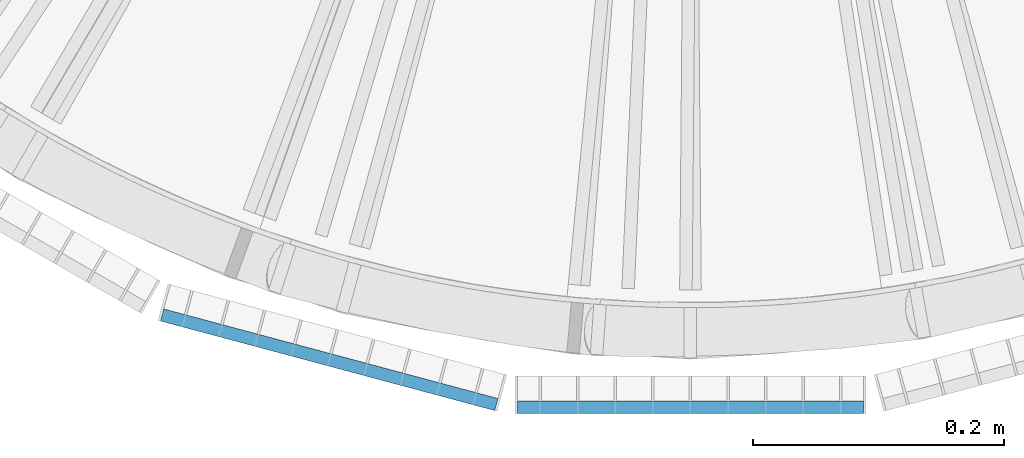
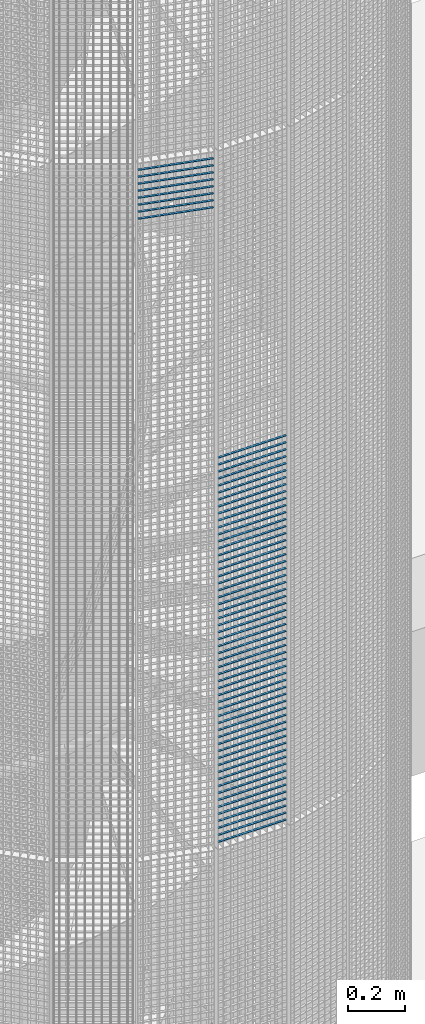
# One storey, part 144 of 1183: 64 beams, 2 elements without a shape of their own.
"""IFC2X3 building model written with IfcOpenShell, lengths in millimetres."""

from ifc_helpers import new_model, si_unit, frame, origin_with_axes, origin_2d_with_axis, place, context, subcontext, project, spatial, rectangle, extrude, material, type_object, element, aggregate, save


model = new_model("IFC2X3")

# Units and contexts
model_context = context("Model", 3, precision=1e-05, world=origin_with_axes())
body_context = subcontext(model_context, "Body", "Model", "MODEL_VIEW")
ifc_project = project(units=[si_unit("LENGTHUNIT", "METRE", prefix="MILLI"), si_unit("AREAUNIT", "SQUARE_METRE"), si_unit("VOLUMEUNIT", "CUBIC_METRE"), si_unit("MASSUNIT", "GRAM", prefix="KILO"), si_unit("TIMEUNIT", "SECOND"), si_unit("PLANEANGLEUNIT", "RADIAN"), si_unit("SOLIDANGLEUNIT", "STERADIAN"), si_unit("THERMODYNAMICTEMPERATUREUNIT", "DEGREE_CELSIUS"), si_unit("LUMINOUSINTENSITYUNIT", "LUMEN")], contexts=[model_context])

# Site, building, storey
site_placement = place(None, origin_with_axes())
site = spatial("IfcSite", under=ifc_project, at=site_placement, Name="Undefined", CompositionType="ELEMENT")
building_placement = place(site_placement, origin_with_axes())
building = spatial("IfcBuilding", under=site, at=building_placement, Name="Undefined", CompositionType="ELEMENT")
storey_placement = place(building_placement, origin_with_axes())
storey = spatial("IfcBuildingStorey", under=building, at=storey_placement, Name="Undefined", CompositionType="ELEMENT", Elevation=0.0)

# Assembly, beams
assembly_1_placement = place(storey_placement, origin_with_axes())
assembly_1 = element("IfcElementAssembly", 1, at=assembly_1_placement, inside=storey, Name="BORDURE", AssemblyPlace="NOTDEFINED", PredefinedType="NOTDEFINED")
ifc_material = material(Name="STEEL/S235JR")
beam_type = type_object("IfcBeamType", Name="PL2*10", PredefinedType="NOTDEFINED")
beam_1_placement = place(assembly_1_placement, frame((-137.996003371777, -1113.47999999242, 13680.0), z_axis=(0.0, -1.0, 0.0), x_axis=(1.0, 0.0, 0.0)))
beam_1 = element("IfcBeam", 2, at=beam_1_placement, type_object=beam_type, material=ifc_material, Name="ENTRETOISE", context=body_context, shape_type="SweptSolid", body=[
    extrude(rectangle(XDim=2.0, YDim=10.0, at=origin_2d_with_axis()), frame((275.999999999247, 9.09494701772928e-13, 1.53210777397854e-14), z_axis=(-1.0, 0.0, 0.0), x_axis=(0.0, -1.0, 0.0)), (0.0, 0.0, 1.0), 276.0),
])
beam_2_placement = place(assembly_1_placement, frame((-137.996003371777, -1113.47999999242, 13650.0), z_axis=(0.0, -1.0, 0.0), x_axis=(1.0, 0.0, 0.0)))
beam_2 = element("IfcBeam", 3, at=beam_2_placement, type_object=beam_type, material=ifc_material, Name="ENTRETOISE", context=body_context, shape_type="SweptSolid", body=[
    extrude(rectangle(XDim=2.0, YDim=10.0, at=origin_2d_with_axis()), frame((275.999999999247, 9.09494701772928e-13, 1.53210777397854e-14), z_axis=(-1.0, 0.0, 0.0), x_axis=(0.0, -1.0, 0.0)), (0.0, 0.0, 1.0), 276.0),
])
beam_3_placement = place(assembly_1_placement, frame((-137.996003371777, -1113.47999999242, 13620.0), z_axis=(0.0, -1.0, 0.0), x_axis=(1.0, 0.0, 0.0)))
beam_3 = element("IfcBeam", 4, at=beam_3_placement, type_object=beam_type, material=ifc_material, Name="ENTRETOISE", context=body_context, shape_type="SweptSolid", body=[
    extrude(rectangle(XDim=2.0, YDim=10.0, at=origin_2d_with_axis()), frame((275.999999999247, 9.09494701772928e-13, 1.53210777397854e-14), z_axis=(-1.0, 0.0, 0.0), x_axis=(0.0, -1.0, 0.0)), (0.0, 0.0, 1.0), 276.0),
])
beam_4_placement = place(assembly_1_placement, frame((-137.996003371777, -1113.47999999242, 13590.0), z_axis=(0.0, -1.0, 0.0), x_axis=(1.0, 0.0, 0.0)))
beam_4 = element("IfcBeam", 5, at=beam_4_placement, type_object=beam_type, material=ifc_material, Name="ENTRETOISE", context=body_context, shape_type="SweptSolid", body=[
    extrude(rectangle(XDim=2.0, YDim=10.0, at=origin_2d_with_axis()), frame((275.999999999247, 9.09494701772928e-13, 1.53210777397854e-14), z_axis=(-1.0, 0.0, 0.0), x_axis=(0.0, -1.0, 0.0)), (0.0, 0.0, 1.0), 276.0),
])
beam_5_placement = place(assembly_1_placement, frame((-137.996003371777, -1113.47999999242, 13560.0), z_axis=(0.0, -1.0, 0.0), x_axis=(1.0, 0.0, 0.0)))
beam_5 = element("IfcBeam", 6, at=beam_5_placement, type_object=beam_type, material=ifc_material, Name="ENTRETOISE", context=body_context, shape_type="SweptSolid", body=[
    extrude(rectangle(XDim=2.0, YDim=10.0, at=origin_2d_with_axis()), frame((275.999999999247, 9.09494701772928e-13, 1.53210777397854e-14), z_axis=(-1.0, 0.0, 0.0), x_axis=(0.0, -1.0, 0.0)), (0.0, 0.0, 1.0), 276.0),
])
beam_6_placement = place(assembly_1_placement, frame((-137.996003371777, -1113.47999999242, 13530.0), z_axis=(0.0, -1.0, 0.0), x_axis=(1.0, 0.0, 0.0)))
beam_6 = element("IfcBeam", 7, at=beam_6_placement, type_object=beam_type, material=ifc_material, Name="ENTRETOISE", context=body_context, shape_type="SweptSolid", body=[
    extrude(rectangle(XDim=2.0, YDim=10.0, at=origin_2d_with_axis()), frame((275.999999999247, 9.09494701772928e-13, 1.53210777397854e-14), z_axis=(-1.0, 0.0, 0.0), x_axis=(0.0, -1.0, 0.0)), (0.0, 0.0, 1.0), 276.0),
])
beam_7_placement = place(assembly_1_placement, frame((-137.996003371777, -1113.47999999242, 13500.0), z_axis=(0.0, -1.0, 0.0), x_axis=(1.0, 0.0, 0.0)))
beam_7 = element("IfcBeam", 8, at=beam_7_placement, type_object=beam_type, material=ifc_material, Name="ENTRETOISE", context=body_context, shape_type="SweptSolid", body=[
    extrude(rectangle(XDim=2.0, YDim=10.0, at=origin_2d_with_axis()), frame((275.999999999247, 9.09494701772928e-13, 1.53210777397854e-14), z_axis=(-1.0, 0.0, 0.0), x_axis=(0.0, -1.0, 0.0)), (0.0, 0.0, 1.0), 276.0),
])
beam_8_placement = place(assembly_1_placement, frame((-137.996003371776, -1113.47999999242, 13470.0), z_axis=(0.0, -1.0, 0.0), x_axis=(1.0, 0.0, 0.0)))
beam_8 = element("IfcBeam", 9, at=beam_8_placement, type_object=beam_type, material=ifc_material, Name="ENTRETOISE", context=body_context, shape_type="SweptSolid", body=[
    extrude(rectangle(XDim=2.0, YDim=10.0, at=origin_2d_with_axis()), frame((275.999999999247, 9.09494701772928e-13, 1.53210777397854e-14), z_axis=(-1.0, 0.0, 0.0), x_axis=(0.0, -1.0, 0.0)), (0.0, 0.0, 1.0), 276.0),
])
beam_9_placement = place(assembly_1_placement, frame((-137.996003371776, -1113.47999999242, 13440.0), z_axis=(0.0, -1.0, 0.0), x_axis=(1.0, 0.0, 0.0)))
beam_9 = element("IfcBeam", 10, at=beam_9_placement, type_object=beam_type, material=ifc_material, Name="ENTRETOISE", context=body_context, shape_type="SweptSolid", body=[
    extrude(rectangle(XDim=2.0, YDim=10.0, at=origin_2d_with_axis()), frame((275.999999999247, 9.09494701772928e-13, 1.53210777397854e-14), z_axis=(-1.0, 0.0, 0.0), x_axis=(0.0, -1.0, 0.0)), (0.0, 0.0, 1.0), 276.0),
])
beam_10_placement = place(assembly_1_placement, frame((-137.996003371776, -1113.47999999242, 13410.0), z_axis=(0.0, -1.0, 0.0), x_axis=(1.0, 0.0, 0.0)))
beam_10 = element("IfcBeam", 11, at=beam_10_placement, type_object=beam_type, material=ifc_material, Name="ENTRETOISE", context=body_context, shape_type="SweptSolid", body=[
    extrude(rectangle(XDim=2.0, YDim=10.0, at=origin_2d_with_axis()), frame((275.999999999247, 9.09494701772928e-13, 1.53210777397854e-14), z_axis=(-1.0, 0.0, 0.0), x_axis=(0.0, -1.0, 0.0)), (0.0, 0.0, 1.0), 276.0),
])
beam_11_placement = place(assembly_1_placement, frame((-137.996003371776, -1113.47999999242, 13380.0), z_axis=(0.0, -1.0, 0.0), x_axis=(1.0, 0.0, 0.0)))
beam_11 = element("IfcBeam", 12, at=beam_11_placement, type_object=beam_type, material=ifc_material, Name="ENTRETOISE", context=body_context, shape_type="SweptSolid", body=[
    extrude(rectangle(XDim=2.0, YDim=10.0, at=origin_2d_with_axis()), frame((275.999999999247, 9.09494701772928e-13, 1.53210777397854e-14), z_axis=(-1.0, 0.0, 0.0), x_axis=(0.0, -1.0, 0.0)), (0.0, 0.0, 1.0), 276.0),
])
beam_12_placement = place(assembly_1_placement, frame((-137.996003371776, -1113.47999999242, 13350.0), z_axis=(0.0, -1.0, 0.0), x_axis=(1.0, 0.0, 0.0)))
beam_12 = element("IfcBeam", 13, at=beam_12_placement, type_object=beam_type, material=ifc_material, Name="ENTRETOISE", context=body_context, shape_type="SweptSolid", body=[
    extrude(rectangle(XDim=2.0, YDim=10.0, at=origin_2d_with_axis()), frame((275.999999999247, 9.09494701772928e-13, 1.53210777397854e-14), z_axis=(-1.0, 0.0, 0.0), x_axis=(0.0, -1.0, 0.0)), (0.0, 0.0, 1.0), 276.0),
])
beam_13_placement = place(assembly_1_placement, frame((-137.996003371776, -1113.47999999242, 13320.0), z_axis=(0.0, -1.0, 0.0), x_axis=(1.0, 0.0, 0.0)))
beam_13 = element("IfcBeam", 14, at=beam_13_placement, type_object=beam_type, material=ifc_material, Name="ENTRETOISE", context=body_context, shape_type="SweptSolid", body=[
    extrude(rectangle(XDim=2.0, YDim=10.0, at=origin_2d_with_axis()), frame((275.999999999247, 9.09494701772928e-13, 1.53210777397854e-14), z_axis=(-1.0, 0.0, 0.0), x_axis=(0.0, -1.0, 0.0)), (0.0, 0.0, 1.0), 276.0),
])
beam_14_placement = place(assembly_1_placement, frame((-137.996003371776, -1113.47999999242, 13290.0), z_axis=(0.0, -1.0, 0.0), x_axis=(1.0, 0.0, 0.0)))
beam_14 = element("IfcBeam", 15, at=beam_14_placement, type_object=beam_type, material=ifc_material, Name="ENTRETOISE", context=body_context, shape_type="SweptSolid", body=[
    extrude(rectangle(XDim=2.0, YDim=10.0, at=origin_2d_with_axis()), frame((275.999999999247, 9.09494701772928e-13, 1.53210777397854e-14), z_axis=(-1.0, 0.0, 0.0), x_axis=(0.0, -1.0, 0.0)), (0.0, 0.0, 1.0), 276.0),
])
beam_15_placement = place(assembly_1_placement, frame((-137.996003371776, -1113.47999999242, 13260.0), z_axis=(0.0, -1.0, 0.0), x_axis=(1.0, 0.0, 0.0)))
beam_15 = element("IfcBeam", 16, at=beam_15_placement, type_object=beam_type, material=ifc_material, Name="ENTRETOISE", context=body_context, shape_type="SweptSolid", body=[
    extrude(rectangle(XDim=2.0, YDim=10.0, at=origin_2d_with_axis()), frame((275.999999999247, 9.09494701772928e-13, 1.53210777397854e-14), z_axis=(-1.0, 0.0, 0.0), x_axis=(0.0, -1.0, 0.0)), (0.0, 0.0, 1.0), 276.0),
])
beam_16_placement = place(assembly_1_placement, frame((-137.996003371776, -1113.47999999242, 13230.0), z_axis=(0.0, -1.0, 0.0), x_axis=(1.0, 0.0, 0.0)))
beam_16 = element("IfcBeam", 17, at=beam_16_placement, type_object=beam_type, material=ifc_material, Name="ENTRETOISE", context=body_context, shape_type="SweptSolid", body=[
    extrude(rectangle(XDim=2.0, YDim=10.0, at=origin_2d_with_axis()), frame((275.999999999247, 9.09494701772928e-13, 1.53210777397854e-14), z_axis=(-1.0, 0.0, 0.0), x_axis=(0.0, -1.0, 0.0)), (0.0, 0.0, 1.0), 276.0),
])
beam_17_placement = place(assembly_1_placement, frame((-137.996003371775, -1113.47999999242, 13200.0), z_axis=(0.0, -1.0, 0.0), x_axis=(1.0, 0.0, 0.0)))
beam_17 = element("IfcBeam", 18, at=beam_17_placement, type_object=beam_type, material=ifc_material, Name="ENTRETOISE", context=body_context, shape_type="SweptSolid", body=[
    extrude(rectangle(XDim=2.0, YDim=10.0, at=origin_2d_with_axis()), frame((275.999999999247, 9.09494701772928e-13, 1.53210777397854e-14), z_axis=(-1.0, 0.0, 0.0), x_axis=(0.0, -1.0, 0.0)), (0.0, 0.0, 1.0), 276.0),
])
beam_18_placement = place(assembly_1_placement, frame((-137.996003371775, -1113.47999999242, 13170.0), z_axis=(0.0, -1.0, 0.0), x_axis=(1.0, 0.0, 0.0)))
beam_18 = element("IfcBeam", 19, at=beam_18_placement, type_object=beam_type, material=ifc_material, Name="ENTRETOISE", context=body_context, shape_type="SweptSolid", body=[
    extrude(rectangle(XDim=2.0, YDim=10.0, at=origin_2d_with_axis()), frame((275.999999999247, 9.09494701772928e-13, 1.53210777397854e-14), z_axis=(-1.0, 0.0, 0.0), x_axis=(0.0, -1.0, 0.0)), (0.0, 0.0, 1.0), 276.0),
])
beam_19_placement = place(assembly_1_placement, frame((-137.996003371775, -1113.47999999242, 13140.0), z_axis=(0.0, -1.0, 0.0), x_axis=(1.0, 0.0, 0.0)))
beam_19 = element("IfcBeam", 20, at=beam_19_placement, type_object=beam_type, material=ifc_material, Name="ENTRETOISE", context=body_context, shape_type="SweptSolid", body=[
    extrude(rectangle(XDim=2.0, YDim=10.0, at=origin_2d_with_axis()), frame((275.999999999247, 9.09494701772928e-13, 1.53210777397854e-14), z_axis=(-1.0, 0.0, 0.0), x_axis=(0.0, -1.0, 0.0)), (0.0, 0.0, 1.0), 276.0),
])
beam_20_placement = place(assembly_1_placement, frame((-137.996003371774, -1113.47999999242, 12720.0), z_axis=(0.0, -1.0, 0.0), x_axis=(1.0, 0.0, 0.0)))
beam_20 = element("IfcBeam", 21, at=beam_20_placement, type_object=beam_type, material=ifc_material, Name="ENTRETOISE", context=body_context, shape_type="SweptSolid", body=[
    extrude(rectangle(XDim=2.0, YDim=10.0, at=origin_2d_with_axis()), frame((275.999999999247, 9.09494701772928e-13, 1.53210777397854e-14), z_axis=(-1.0, 0.0, 0.0), x_axis=(0.0, -1.0, 0.0)), (0.0, 0.0, 1.0), 276.0),
])
beam_21_placement = place(assembly_1_placement, frame((-137.996003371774, -1113.47999999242, 12690.0), z_axis=(0.0, -1.0, 0.0), x_axis=(1.0, 0.0, 0.0)))
beam_21 = element("IfcBeam", 22, at=beam_21_placement, type_object=beam_type, material=ifc_material, Name="ENTRETOISE", context=body_context, shape_type="SweptSolid", body=[
    extrude(rectangle(XDim=2.0, YDim=10.0, at=origin_2d_with_axis()), frame((275.999999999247, 9.09494701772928e-13, 1.53210777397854e-14), z_axis=(-1.0, 0.0, 0.0), x_axis=(0.0, -1.0, 0.0)), (0.0, 0.0, 1.0), 276.0),
])
beam_22_placement = place(assembly_1_placement, frame((-137.996003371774, -1113.47999999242, 12750.0), z_axis=(0.0, -1.0, 0.0), x_axis=(1.0, 0.0, 0.0)))
beam_22 = element("IfcBeam", 23, at=beam_22_placement, type_object=beam_type, material=ifc_material, Name="ENTRETOISE", context=body_context, shape_type="SweptSolid", body=[
    extrude(rectangle(XDim=2.0, YDim=10.0, at=origin_2d_with_axis()), frame((275.999999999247, 9.09494701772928e-13, 1.53210777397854e-14), z_axis=(-1.0, 0.0, 0.0), x_axis=(0.0, -1.0, 0.0)), (0.0, 0.0, 1.0), 276.0),
])
beam_23_placement = place(assembly_1_placement, frame((-137.996003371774, -1113.47999999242, 12660.0), z_axis=(0.0, -1.0, 0.0), x_axis=(1.0, 0.0, 0.0)))
beam_23 = element("IfcBeam", 24, at=beam_23_placement, type_object=beam_type, material=ifc_material, Name="ENTRETOISE", context=body_context, shape_type="SweptSolid", body=[
    extrude(rectangle(XDim=2.0, YDim=10.0, at=origin_2d_with_axis()), frame((275.999999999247, 9.09494701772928e-13, 1.53210777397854e-14), z_axis=(-1.0, 0.0, 0.0), x_axis=(0.0, -1.0, 0.0)), (0.0, 0.0, 1.0), 276.0),
])
beam_24_placement = place(assembly_1_placement, frame((-137.996003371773, -1113.47999999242, 12630.0), z_axis=(0.0, -1.0, 0.0), x_axis=(1.0, 0.0, 0.0)))
beam_24 = element("IfcBeam", 25, at=beam_24_placement, type_object=beam_type, material=ifc_material, Name="ENTRETOISE", context=body_context, shape_type="SweptSolid", body=[
    extrude(rectangle(XDim=2.0, YDim=10.0, at=origin_2d_with_axis()), frame((275.999999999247, 9.09494701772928e-13, 1.53210777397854e-14), z_axis=(-1.0, 0.0, 0.0), x_axis=(0.0, -1.0, 0.0)), (0.0, 0.0, 1.0), 276.0),
])
beam_25_placement = place(assembly_1_placement, frame((-137.996003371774, -1113.47999999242, 12780.0), z_axis=(0.0, -1.0, 0.0), x_axis=(1.0, 0.0, 0.0)))
beam_25 = element("IfcBeam", 26, at=beam_25_placement, type_object=beam_type, material=ifc_material, Name="ENTRETOISE", context=body_context, shape_type="SweptSolid", body=[
    extrude(rectangle(XDim=2.0, YDim=10.0, at=origin_2d_with_axis()), frame((275.999999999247, 9.09494701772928e-13, 1.53210777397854e-14), z_axis=(-1.0, 0.0, 0.0), x_axis=(0.0, -1.0, 0.0)), (0.0, 0.0, 1.0), 276.0),
])
beam_26_placement = place(assembly_1_placement, frame((-137.996003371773, -1113.47999999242, 12600.0), z_axis=(0.0, -1.0, 0.0), x_axis=(1.0, 0.0, 0.0)))
beam_26 = element("IfcBeam", 27, at=beam_26_placement, type_object=beam_type, material=ifc_material, Name="ENTRETOISE", context=body_context, shape_type="SweptSolid", body=[
    extrude(rectangle(XDim=2.0, YDim=10.0, at=origin_2d_with_axis()), frame((275.999999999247, 9.09494701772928e-13, 1.53210777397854e-14), z_axis=(-1.0, 0.0, 0.0), x_axis=(0.0, -1.0, 0.0)), (0.0, 0.0, 1.0), 276.0),
])
beam_27_placement = place(assembly_1_placement, frame((-137.996003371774, -1113.47999999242, 12810.0), z_axis=(0.0, -1.0, 0.0), x_axis=(1.0, 0.0, 0.0)))
beam_27 = element("IfcBeam", 28, at=beam_27_placement, type_object=beam_type, material=ifc_material, Name="ENTRETOISE", context=body_context, shape_type="SweptSolid", body=[
    extrude(rectangle(XDim=2.0, YDim=10.0, at=origin_2d_with_axis()), frame((275.999999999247, 9.09494701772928e-13, 1.53210777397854e-14), z_axis=(-1.0, 0.0, 0.0), x_axis=(0.0, -1.0, 0.0)), (0.0, 0.0, 1.0), 276.0),
])
beam_28_placement = place(assembly_1_placement, frame((-137.996003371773, -1113.47999999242, 12570.0), z_axis=(0.0, -1.0, 0.0), x_axis=(1.0, 0.0, 0.0)))
beam_28 = element("IfcBeam", 29, at=beam_28_placement, type_object=beam_type, material=ifc_material, Name="ENTRETOISE", context=body_context, shape_type="SweptSolid", body=[
    extrude(rectangle(XDim=2.0, YDim=10.0, at=origin_2d_with_axis()), frame((275.999999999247, 9.09494701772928e-13, 1.53210777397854e-14), z_axis=(-1.0, 0.0, 0.0), x_axis=(0.0, -1.0, 0.0)), (0.0, 0.0, 1.0), 276.0),
])
beam_29_placement = place(assembly_1_placement, frame((-137.996003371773, -1113.47999999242, 12540.0), z_axis=(0.0, -1.0, 0.0), x_axis=(1.0, 0.0, 0.0)))
beam_29 = element("IfcBeam", 30, at=beam_29_placement, type_object=beam_type, material=ifc_material, Name="ENTRETOISE", context=body_context, shape_type="SweptSolid", body=[
    extrude(rectangle(XDim=2.0, YDim=10.0, at=origin_2d_with_axis()), frame((275.999999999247, 9.09494701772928e-13, 1.53210777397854e-14), z_axis=(-1.0, 0.0, 0.0), x_axis=(0.0, -1.0, 0.0)), (0.0, 0.0, 1.0), 276.0),
])
beam_30_placement = place(assembly_1_placement, frame((-137.996003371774, -1113.47999999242, 12840.0), z_axis=(0.0, -1.0, 0.0), x_axis=(1.0, 0.0, 0.0)))
beam_30 = element("IfcBeam", 31, at=beam_30_placement, type_object=beam_type, material=ifc_material, Name="ENTRETOISE", context=body_context, shape_type="SweptSolid", body=[
    extrude(rectangle(XDim=2.0, YDim=10.0, at=origin_2d_with_axis()), frame((275.999999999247, 9.09494701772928e-13, 1.53210777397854e-14), z_axis=(-1.0, 0.0, 0.0), x_axis=(0.0, -1.0, 0.0)), (0.0, 0.0, 1.0), 276.0),
])
beam_31_placement = place(assembly_1_placement, frame((-137.996003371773, -1113.47999999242, 12510.0), z_axis=(0.0, -1.0, 0.0), x_axis=(1.0, 0.0, 0.0)))
beam_31 = element("IfcBeam", 32, at=beam_31_placement, type_object=beam_type, material=ifc_material, Name="ENTRETOISE", context=body_context, shape_type="SweptSolid", body=[
    extrude(rectangle(XDim=2.0, YDim=10.0, at=origin_2d_with_axis()), frame((275.999999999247, 9.09494701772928e-13, 1.53210777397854e-14), z_axis=(-1.0, 0.0, 0.0), x_axis=(0.0, -1.0, 0.0)), (0.0, 0.0, 1.0), 276.0),
])
beam_32_placement = place(assembly_1_placement, frame((-137.996003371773, -1113.47999999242, 12480.0), z_axis=(0.0, -1.0, 0.0), x_axis=(1.0, 0.0, 0.0)))
beam_32 = element("IfcBeam", 33, at=beam_32_placement, type_object=beam_type, material=ifc_material, Name="ENTRETOISE", context=body_context, shape_type="SweptSolid", body=[
    extrude(rectangle(XDim=2.0, YDim=10.0, at=origin_2d_with_axis()), frame((275.999999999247, 9.09494701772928e-13, 1.53210777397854e-14), z_axis=(-1.0, 0.0, 0.0), x_axis=(0.0, -1.0, 0.0)), (0.0, 0.0, 1.0), 276.0),
])
beam_33_placement = place(assembly_1_placement, frame((-137.996003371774, -1113.47999999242, 12870.0), z_axis=(0.0, -1.0, 0.0), x_axis=(1.0, 0.0, 0.0)))
beam_33 = element("IfcBeam", 34, at=beam_33_placement, type_object=beam_type, material=ifc_material, Name="ENTRETOISE", context=body_context, shape_type="SweptSolid", body=[
    extrude(rectangle(XDim=2.0, YDim=10.0, at=origin_2d_with_axis()), frame((275.999999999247, 9.09494701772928e-13, 1.53210777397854e-14), z_axis=(-1.0, 0.0, 0.0), x_axis=(0.0, -1.0, 0.0)), (0.0, 0.0, 1.0), 276.0),
])
beam_34_placement = place(assembly_1_placement, frame((-137.996003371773, -1113.47999999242, 12450.0), z_axis=(0.0, -1.0, 0.0), x_axis=(1.0, 0.0, 0.0)))
beam_34 = element("IfcBeam", 35, at=beam_34_placement, type_object=beam_type, material=ifc_material, Name="ENTRETOISE", context=body_context, shape_type="SweptSolid", body=[
    extrude(rectangle(XDim=2.0, YDim=10.0, at=origin_2d_with_axis()), frame((275.999999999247, 9.09494701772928e-13, 1.53210777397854e-14), z_axis=(-1.0, 0.0, 0.0), x_axis=(0.0, -1.0, 0.0)), (0.0, 0.0, 1.0), 276.0),
])
beam_35_placement = place(assembly_1_placement, frame((-137.996003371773, -1113.47999999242, 12420.0), z_axis=(0.0, -1.0, 0.0), x_axis=(1.0, 0.0, 0.0)))
beam_35 = element("IfcBeam", 36, at=beam_35_placement, type_object=beam_type, material=ifc_material, Name="ENTRETOISE", context=body_context, shape_type="SweptSolid", body=[
    extrude(rectangle(XDim=2.0, YDim=10.0, at=origin_2d_with_axis()), frame((275.999999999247, 9.09494701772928e-13, 1.53210777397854e-14), z_axis=(-1.0, 0.0, 0.0), x_axis=(0.0, -1.0, 0.0)), (0.0, 0.0, 1.0), 276.0),
])
beam_36_placement = place(assembly_1_placement, frame((-137.996003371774, -1113.47999999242, 12900.0), z_axis=(0.0, -1.0, 0.0), x_axis=(1.0, 0.0, 0.0)))
beam_36 = element("IfcBeam", 37, at=beam_36_placement, type_object=beam_type, material=ifc_material, Name="ENTRETOISE", context=body_context, shape_type="SweptSolid", body=[
    extrude(rectangle(XDim=2.0, YDim=10.0, at=origin_2d_with_axis()), frame((275.999999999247, 9.09494701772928e-13, 1.53210777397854e-14), z_axis=(-1.0, 0.0, 0.0), x_axis=(0.0, -1.0, 0.0)), (0.0, 0.0, 1.0), 276.0),
])
beam_37_placement = place(assembly_1_placement, frame((-137.996003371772, -1113.47999999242, 12390.0), z_axis=(0.0, -1.0, 0.0), x_axis=(1.0, 0.0, 0.0)))
beam_37 = element("IfcBeam", 38, at=beam_37_placement, type_object=beam_type, material=ifc_material, Name="ENTRETOISE", context=body_context, shape_type="SweptSolid", body=[
    extrude(rectangle(XDim=2.0, YDim=10.0, at=origin_2d_with_axis()), frame((275.999999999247, 9.09494701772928e-13, 1.53210777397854e-14), z_axis=(-1.0, 0.0, 0.0), x_axis=(0.0, -1.0, 0.0)), (0.0, 0.0, 1.0), 276.0),
])
beam_38_placement = place(assembly_1_placement, frame((-137.996003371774, -1113.47999999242, 12930.0), z_axis=(0.0, -1.0, 0.0), x_axis=(1.0, 0.0, 0.0)))
beam_38 = element("IfcBeam", 39, at=beam_38_placement, type_object=beam_type, material=ifc_material, Name="ENTRETOISE", context=body_context, shape_type="SweptSolid", body=[
    extrude(rectangle(XDim=2.0, YDim=10.0, at=origin_2d_with_axis()), frame((275.999999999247, 9.09494701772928e-13, 1.53210777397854e-14), z_axis=(-1.0, 0.0, 0.0), x_axis=(0.0, -1.0, 0.0)), (0.0, 0.0, 1.0), 276.0),
])
beam_39_placement = place(assembly_1_placement, frame((-137.996003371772, -1113.47999999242, 12360.0), z_axis=(0.0, -1.0, 0.0), x_axis=(1.0, 0.0, 0.0)))
beam_39 = element("IfcBeam", 40, at=beam_39_placement, type_object=beam_type, material=ifc_material, Name="ENTRETOISE", context=body_context, shape_type="SweptSolid", body=[
    extrude(rectangle(XDim=2.0, YDim=10.0, at=origin_2d_with_axis()), frame((275.999999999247, 9.09494701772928e-13, 1.53210777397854e-14), z_axis=(-1.0, 0.0, 0.0), x_axis=(0.0, -1.0, 0.0)), (0.0, 0.0, 1.0), 276.0),
])
beam_40_placement = place(assembly_1_placement, frame((-137.996003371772, -1113.47999999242, 12330.0), z_axis=(0.0, -1.0, 0.0), x_axis=(1.0, 0.0, 0.0)))
beam_40 = element("IfcBeam", 41, at=beam_40_placement, type_object=beam_type, material=ifc_material, Name="ENTRETOISE", context=body_context, shape_type="SweptSolid", body=[
    extrude(rectangle(XDim=2.0, YDim=10.0, at=origin_2d_with_axis()), frame((275.999999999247, 9.09494701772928e-13, 1.53210777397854e-14), z_axis=(-1.0, 0.0, 0.0), x_axis=(0.0, -1.0, 0.0)), (0.0, 0.0, 1.0), 276.0),
])
beam_41_placement = place(assembly_1_placement, frame((-137.996003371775, -1113.47999999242, 12960.0), z_axis=(0.0, -1.0, 0.0), x_axis=(1.0, 0.0, 0.0)))
beam_41 = element("IfcBeam", 42, at=beam_41_placement, type_object=beam_type, material=ifc_material, Name="ENTRETOISE", context=body_context, shape_type="SweptSolid", body=[
    extrude(rectangle(XDim=2.0, YDim=10.0, at=origin_2d_with_axis()), frame((275.999999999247, 9.09494701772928e-13, 1.53210777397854e-14), z_axis=(-1.0, 0.0, 0.0), x_axis=(0.0, -1.0, 0.0)), (0.0, 0.0, 1.0), 276.0),
])
beam_42_placement = place(assembly_1_placement, frame((-137.996003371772, -1113.47999999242, 12300.0), z_axis=(0.0, -1.0, 0.0), x_axis=(1.0, 0.0, 0.0)))
beam_42 = element("IfcBeam", 43, at=beam_42_placement, type_object=beam_type, material=ifc_material, Name="ENTRETOISE", context=body_context, shape_type="SweptSolid", body=[
    extrude(rectangle(XDim=2.0, YDim=10.0, at=origin_2d_with_axis()), frame((275.999999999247, 9.09494701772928e-13, 1.53210777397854e-14), z_axis=(-1.0, 0.0, 0.0), x_axis=(0.0, -1.0, 0.0)), (0.0, 0.0, 1.0), 276.0),
])
beam_43_placement = place(assembly_1_placement, frame((-137.996003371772, -1113.47999999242, 12270.0), z_axis=(0.0, -1.0, 0.0), x_axis=(1.0, 0.0, 0.0)))
beam_43 = element("IfcBeam", 44, at=beam_43_placement, type_object=beam_type, material=ifc_material, Name="ENTRETOISE", context=body_context, shape_type="SweptSolid", body=[
    extrude(rectangle(XDim=2.0, YDim=10.0, at=origin_2d_with_axis()), frame((275.999999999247, 9.09494701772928e-13, 1.53210777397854e-14), z_axis=(-1.0, 0.0, 0.0), x_axis=(0.0, -1.0, 0.0)), (0.0, 0.0, 1.0), 276.0),
])
beam_44_placement = place(assembly_1_placement, frame((-137.996003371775, -1113.47999999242, 12990.0), z_axis=(0.0, -1.0, 0.0), x_axis=(1.0, 0.0, 0.0)))
beam_44 = element("IfcBeam", 45, at=beam_44_placement, type_object=beam_type, material=ifc_material, Name="ENTRETOISE", context=body_context, shape_type="SweptSolid", body=[
    extrude(rectangle(XDim=2.0, YDim=10.0, at=origin_2d_with_axis()), frame((275.999999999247, 9.09494701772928e-13, 1.53210777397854e-14), z_axis=(-1.0, 0.0, 0.0), x_axis=(0.0, -1.0, 0.0)), (0.0, 0.0, 1.0), 276.0),
])
beam_45_placement = place(assembly_1_placement, frame((-137.996003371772, -1113.47999999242, 12240.0), z_axis=(0.0, -1.0, 0.0), x_axis=(1.0, 0.0, 0.0)))
beam_45 = element("IfcBeam", 46, at=beam_45_placement, type_object=beam_type, material=ifc_material, Name="ENTRETOISE", context=body_context, shape_type="SweptSolid", body=[
    extrude(rectangle(XDim=2.0, YDim=10.0, at=origin_2d_with_axis()), frame((275.999999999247, 9.09494701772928e-13, 1.53210777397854e-14), z_axis=(-1.0, 0.0, 0.0), x_axis=(0.0, -1.0, 0.0)), (0.0, 0.0, 1.0), 276.0),
])
beam_46_placement = place(assembly_1_placement, frame((-137.996003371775, -1113.47999999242, 13020.0), z_axis=(0.0, -1.0, 0.0), x_axis=(1.0, 0.0, 0.0)))
beam_46 = element("IfcBeam", 47, at=beam_46_placement, type_object=beam_type, material=ifc_material, Name="ENTRETOISE", context=body_context, shape_type="SweptSolid", body=[
    extrude(rectangle(XDim=2.0, YDim=10.0, at=origin_2d_with_axis()), frame((275.999999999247, 9.09494701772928e-13, 1.53210777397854e-14), z_axis=(-1.0, 0.0, 0.0), x_axis=(0.0, -1.0, 0.0)), (0.0, 0.0, 1.0), 276.0),
])
beam_47_placement = place(assembly_1_placement, frame((-137.996003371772, -1113.47999999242, 12210.0), z_axis=(0.0, -1.0, 0.0), x_axis=(1.0, 0.0, 0.0)))
beam_47 = element("IfcBeam", 48, at=beam_47_placement, type_object=beam_type, material=ifc_material, Name="ENTRETOISE", context=body_context, shape_type="SweptSolid", body=[
    extrude(rectangle(XDim=2.0, YDim=10.0, at=origin_2d_with_axis()), frame((275.999999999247, 9.09494701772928e-13, 1.53210777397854e-14), z_axis=(-1.0, 0.0, 0.0), x_axis=(0.0, -1.0, 0.0)), (0.0, 0.0, 1.0), 276.0),
])
beam_48_placement = place(assembly_1_placement, frame((-137.996003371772, -1113.47999999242, 12180.0), z_axis=(0.0, -1.0, 0.0), x_axis=(1.0, 0.0, 0.0)))
beam_48 = element("IfcBeam", 49, at=beam_48_placement, type_object=beam_type, material=ifc_material, Name="ENTRETOISE", context=body_context, shape_type="SweptSolid", body=[
    extrude(rectangle(XDim=2.0, YDim=10.0, at=origin_2d_with_axis()), frame((275.999999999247, 9.09494701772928e-13, 1.53210777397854e-14), z_axis=(-1.0, 0.0, 0.0), x_axis=(0.0, -1.0, 0.0)), (0.0, 0.0, 1.0), 276.0),
])
beam_49_placement = place(assembly_1_placement, frame((-137.996003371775, -1113.47999999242, 13050.0), z_axis=(0.0, -1.0, 0.0), x_axis=(1.0, 0.0, 0.0)))
beam_49 = element("IfcBeam", 50, at=beam_49_placement, type_object=beam_type, material=ifc_material, Name="ENTRETOISE", context=body_context, shape_type="SweptSolid", body=[
    extrude(rectangle(XDim=2.0, YDim=10.0, at=origin_2d_with_axis()), frame((275.999999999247, 9.09494701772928e-13, 1.53210777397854e-14), z_axis=(-1.0, 0.0, 0.0), x_axis=(0.0, -1.0, 0.0)), (0.0, 0.0, 1.0), 276.0),
])
beam_50_placement = place(assembly_1_placement, frame((-137.996003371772, -1113.47999999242, 12150.0), z_axis=(0.0, -1.0, 0.0), x_axis=(1.0, 0.0, 0.0)))
beam_50 = element("IfcBeam", 51, at=beam_50_placement, type_object=beam_type, material=ifc_material, Name="ENTRETOISE", context=body_context, shape_type="SweptSolid", body=[
    extrude(rectangle(XDim=2.0, YDim=10.0, at=origin_2d_with_axis()), frame((275.999999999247, 9.09494701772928e-13, 1.53210777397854e-14), z_axis=(-1.0, 0.0, 0.0), x_axis=(0.0, -1.0, 0.0)), (0.0, 0.0, 1.0), 276.0),
])
beam_51_placement = place(assembly_1_placement, frame((-137.996003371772, -1113.47999999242, 12120.0), z_axis=(0.0, -1.0, 0.0), x_axis=(1.0, 0.0, 0.0)))
beam_51 = element("IfcBeam", 52, at=beam_51_placement, type_object=beam_type, material=ifc_material, Name="ENTRETOISE", context=body_context, shape_type="SweptSolid", body=[
    extrude(rectangle(XDim=2.0, YDim=10.0, at=origin_2d_with_axis()), frame((275.999999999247, 9.09494701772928e-13, 1.53210777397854e-14), z_axis=(-1.0, 0.0, 0.0), x_axis=(0.0, -1.0, 0.0)), (0.0, 0.0, 1.0), 276.0),
])
beam_52_placement = place(assembly_1_placement, frame((-137.996003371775, -1113.47999999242, 13080.0), z_axis=(0.0, -1.0, 0.0), x_axis=(1.0, 0.0, 0.0)))
beam_52 = element("IfcBeam", 53, at=beam_52_placement, type_object=beam_type, material=ifc_material, Name="ENTRETOISE", context=body_context, shape_type="SweptSolid", body=[
    extrude(rectangle(XDim=2.0, YDim=10.0, at=origin_2d_with_axis()), frame((275.999999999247, 9.09494701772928e-13, 1.53210777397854e-14), z_axis=(-1.0, 0.0, 0.0), x_axis=(0.0, -1.0, 0.0)), (0.0, 0.0, 1.0), 276.0),
])
beam_53_placement = place(assembly_1_placement, frame((-137.996003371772, -1113.47999999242, 12090.0), z_axis=(0.0, -1.0, 0.0), x_axis=(1.0, 0.0, 0.0)))
beam_53 = element("IfcBeam", 54, at=beam_53_placement, type_object=beam_type, material=ifc_material, Name="ENTRETOISE", context=body_context, shape_type="SweptSolid", body=[
    extrude(rectangle(XDim=2.0, YDim=10.0, at=origin_2d_with_axis()), frame((275.999999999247, 9.09494701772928e-13, 1.53210777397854e-14), z_axis=(-1.0, 0.0, 0.0), x_axis=(0.0, -1.0, 0.0)), (0.0, 0.0, 1.0), 276.0),
])
beam_54_placement = place(assembly_1_placement, frame((-137.996003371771, -1113.47999999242, 12060.0), z_axis=(0.0, -1.0, 0.0), x_axis=(1.0, 0.0, 0.0)))
beam_54 = element("IfcBeam", 55, at=beam_54_placement, type_object=beam_type, material=ifc_material, Name="ENTRETOISE", context=body_context, shape_type="SweptSolid", body=[
    extrude(rectangle(XDim=2.0, YDim=10.0, at=origin_2d_with_axis()), frame((275.999999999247, 9.09494701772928e-13, 1.53210777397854e-14), z_axis=(-1.0, 0.0, 0.0), x_axis=(0.0, -1.0, 0.0)), (0.0, 0.0, 1.0), 276.0),
])
beam_55_placement = place(assembly_1_placement, frame((-137.996003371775, -1113.47999999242, 13110.0), z_axis=(0.0, -1.0, 0.0), x_axis=(1.0, 0.0, 0.0)))
beam_55 = element("IfcBeam", 56, at=beam_55_placement, type_object=beam_type, material=ifc_material, Name="ENTRETOISE", context=body_context, shape_type="SweptSolid", body=[
    extrude(rectangle(XDim=2.0, YDim=10.0, at=origin_2d_with_axis()), frame((275.999999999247, 9.09494701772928e-13, 1.53210777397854e-14), z_axis=(-1.0, 0.0, 0.0), x_axis=(0.0, -1.0, 0.0)), (0.0, 0.0, 1.0), 276.0),
])
beam_56_placement = place(assembly_1_placement, frame((-137.99600337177, -1113.47999999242, 12030.0), z_axis=(0.0, -1.0, 0.0), x_axis=(1.0, 0.0, 0.0)))
beam_56 = element("IfcBeam", 57, at=beam_56_placement, type_object=beam_type, material=ifc_material, Name="ENTRETOISE", context=body_context, shape_type="SweptSolid", body=[
    extrude(rectangle(XDim=2.0, YDim=10.0, at=origin_2d_with_axis()), frame((275.999999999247, 9.09494701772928e-13, 1.53210777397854e-14), z_axis=(-1.0, 0.0, 0.0), x_axis=(0.0, -1.0, 0.0)), (0.0, 0.0, 1.0), 276.0),
])
aggregate(assembly_1, [beam_1, beam_2, beam_3, beam_4, beam_5, beam_6, beam_7, beam_8, beam_9, beam_10, beam_11, beam_12, beam_13, beam_14, beam_15, beam_16, beam_17, beam_18, beam_19, beam_20, beam_21, beam_22, beam_23, beam_24, beam_25, beam_26, beam_27, beam_28, beam_29, beam_30, beam_31, beam_32, beam_33, beam_34, beam_35, beam_36, beam_37, beam_38, beam_39, beam_40, beam_41, beam_42, beam_43, beam_44, beam_45, beam_46, beam_47, beam_48, beam_49, beam_50, beam_51, beam_52, beam_53, beam_54, beam_55, beam_56])

assembly_2_placement = place(storey_placement, origin_with_axes())
assembly_2 = element("IfcElementAssembly", 58, at=assembly_2_placement, inside=storey, Name="BORDURE", AssemblyPlace="NOTDEFINED", PredefinedType="NOTDEFINED")
beam_57_placement = place(assembly_2_placement, frame((-421.483733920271, -1039.82309522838, 14970.0), z_axis=(-0.258819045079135, -0.965925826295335, 0.0), x_axis=(0.965925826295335, -0.258819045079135, 0.0)))
beam_57 = element("IfcBeam", 59, at=beam_57_placement, type_object=beam_type, material=ifc_material, Name="ENTRETOISE", context=body_context, shape_type="SweptSolid", body=[
    extrude(rectangle(XDim=2.0, YDim=10.0, at=origin_2d_with_axis()), frame((275.999999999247, 9.09494701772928e-13, 1.53210777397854e-14), z_axis=(-1.0, 0.0, 0.0), x_axis=(0.0, -1.0, 0.0)), (0.0, 0.0, 1.0), 276.0),
])
beam_58_placement = place(assembly_2_placement, frame((-421.483733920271, -1039.82309522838, 14940.0), z_axis=(-0.258819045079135, -0.965925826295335, 0.0), x_axis=(0.965925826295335, -0.258819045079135, 0.0)))
beam_58 = element("IfcBeam", 60, at=beam_58_placement, type_object=beam_type, material=ifc_material, Name="ENTRETOISE", context=body_context, shape_type="SweptSolid", body=[
    extrude(rectangle(XDim=2.0, YDim=10.0, at=origin_2d_with_axis()), frame((275.999999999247, 9.09494701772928e-13, 1.53210777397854e-14), z_axis=(-1.0, 0.0, 0.0), x_axis=(0.0, -1.0, 0.0)), (0.0, 0.0, 1.0), 276.0),
])
beam_59_placement = place(assembly_2_placement, frame((-421.483733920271, -1039.82309522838, 14910.0), z_axis=(-0.258819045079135, -0.965925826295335, 0.0), x_axis=(0.965925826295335, -0.258819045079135, 0.0)))
beam_59 = element("IfcBeam", 61, at=beam_59_placement, type_object=beam_type, material=ifc_material, Name="ENTRETOISE", context=body_context, shape_type="SweptSolid", body=[
    extrude(rectangle(XDim=2.0, YDim=10.0, at=origin_2d_with_axis()), frame((275.999999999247, 9.09494701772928e-13, 1.53210777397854e-14), z_axis=(-1.0, 0.0, 0.0), x_axis=(0.0, -1.0, 0.0)), (0.0, 0.0, 1.0), 276.0),
])
beam_60_placement = place(assembly_2_placement, frame((-421.483733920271, -1039.82309522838, 14880.0), z_axis=(-0.258819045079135, -0.965925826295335, 0.0), x_axis=(0.965925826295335, -0.258819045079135, 0.0)))
beam_60 = element("IfcBeam", 62, at=beam_60_placement, type_object=beam_type, material=ifc_material, Name="ENTRETOISE", context=body_context, shape_type="SweptSolid", body=[
    extrude(rectangle(XDim=2.0, YDim=10.0, at=origin_2d_with_axis()), frame((275.999999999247, 9.09494701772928e-13, 1.53210777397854e-14), z_axis=(-1.0, 0.0, 0.0), x_axis=(0.0, -1.0, 0.0)), (0.0, 0.0, 1.0), 276.0),
])
beam_61_placement = place(assembly_2_placement, frame((-421.483733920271, -1039.82309522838, 14850.0), z_axis=(-0.258819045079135, -0.965925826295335, 0.0), x_axis=(0.965925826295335, -0.258819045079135, 0.0)))
beam_61 = element("IfcBeam", 63, at=beam_61_placement, type_object=beam_type, material=ifc_material, Name="ENTRETOISE", context=body_context, shape_type="SweptSolid", body=[
    extrude(rectangle(XDim=2.0, YDim=10.0, at=origin_2d_with_axis()), frame((275.999999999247, 9.09494701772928e-13, 1.53210777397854e-14), z_axis=(-1.0, 0.0, 0.0), x_axis=(0.0, -1.0, 0.0)), (0.0, 0.0, 1.0), 276.0),
])
beam_62_placement = place(assembly_2_placement, frame((-421.483733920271, -1039.82309522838, 14820.0), z_axis=(-0.258819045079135, -0.965925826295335, 0.0), x_axis=(0.965925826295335, -0.258819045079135, 0.0)))
beam_62 = element("IfcBeam", 64, at=beam_62_placement, type_object=beam_type, material=ifc_material, Name="ENTRETOISE", context=body_context, shape_type="SweptSolid", body=[
    extrude(rectangle(XDim=2.0, YDim=10.0, at=origin_2d_with_axis()), frame((275.999999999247, 9.09494701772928e-13, 1.53210777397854e-14), z_axis=(-1.0, 0.0, 0.0), x_axis=(0.0, -1.0, 0.0)), (0.0, 0.0, 1.0), 276.0),
])
beam_63_placement = place(assembly_2_placement, frame((-421.483733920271, -1039.82309522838, 14790.0), z_axis=(-0.258819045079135, -0.965925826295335, 0.0), x_axis=(0.965925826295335, -0.258819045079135, 0.0)))
beam_63 = element("IfcBeam", 65, at=beam_63_placement, type_object=beam_type, material=ifc_material, Name="ENTRETOISE", context=body_context, shape_type="SweptSolid", body=[
    extrude(rectangle(XDim=2.0, YDim=10.0, at=origin_2d_with_axis()), frame((275.999999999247, 9.09494701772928e-13, 1.53210777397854e-14), z_axis=(-1.0, 0.0, 0.0), x_axis=(0.0, -1.0, 0.0)), (0.0, 0.0, 1.0), 276.0),
])
beam_64_placement = place(assembly_2_placement, frame((-421.483733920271, -1039.82309522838, 14760.0), z_axis=(-0.258819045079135, -0.965925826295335, 0.0), x_axis=(0.965925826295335, -0.258819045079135, 0.0)))
beam_64 = element("IfcBeam", 66, at=beam_64_placement, type_object=beam_type, material=ifc_material, Name="ENTRETOISE", context=body_context, shape_type="SweptSolid", body=[
    extrude(rectangle(XDim=2.0, YDim=10.0, at=origin_2d_with_axis()), frame((275.999999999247, 9.09494701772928e-13, 1.53210777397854e-14), z_axis=(-1.0, 0.0, 0.0), x_axis=(0.0, -1.0, 0.0)), (0.0, 0.0, 1.0), 276.0),
])
aggregate(assembly_2, [beam_57, beam_58, beam_59, beam_60, beam_61, beam_62, beam_63, beam_64])

save(model, "model.ifc")
